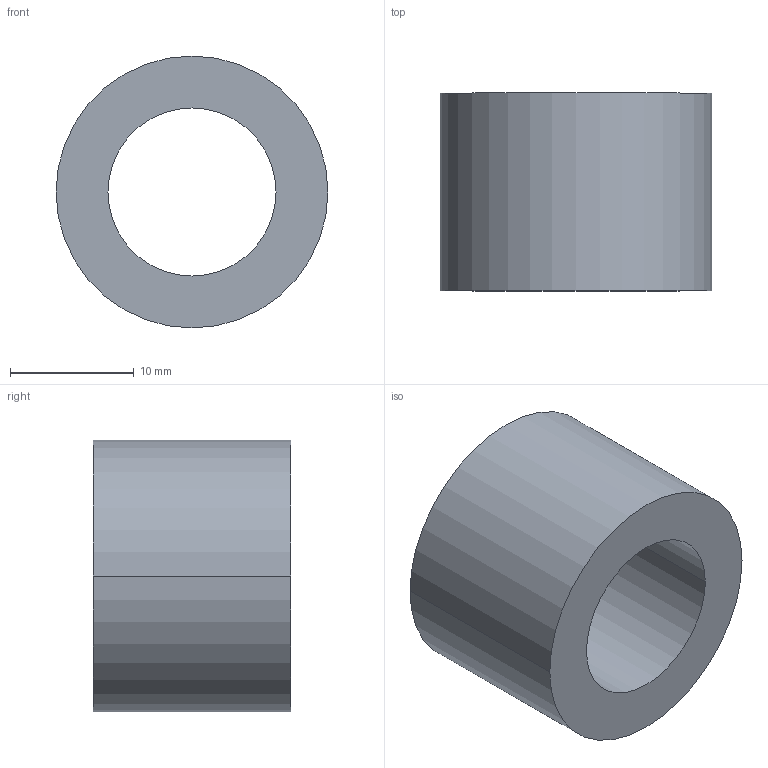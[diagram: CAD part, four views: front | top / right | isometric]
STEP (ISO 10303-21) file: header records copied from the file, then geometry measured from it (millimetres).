
FILE_DESCRIPTION (( 'STEP AP203' ), '1' );
FILE_NAME ('30800.WPP22F13.6.step', '2019-01-23T22:41:54', ( '' ), ( '' ), 'SwSTEP 2.0', 'SolidWorks 2017', '' );
FILE_SCHEMA (( 'CONFIG_CONTROL_DESIGN' ));
Length unit declared in the file: millimetre
Products named in the file (1): 30800.WPP22F13.6
Bounding box: 22 x 16 x 22 mm (x, y, z)
Volume: 3718.8 mm3; surface area: 2224.3 mm2
Topology: 1 solids, 1 shells, 8 faces, 16 edges, 10 vertices
Faces by surface type: cylinder 4, torus 2, plane 2
Entity records: 297 total; most frequent: DIRECTION 46, CARTESIAN_POINT 35, ORIENTED_EDGE 32, AXIS2_PLACEMENT_3D 21, EDGE_CURVE 16, CIRCLE 12, EDGE_LOOP 10, VERTEX_POINT 10
